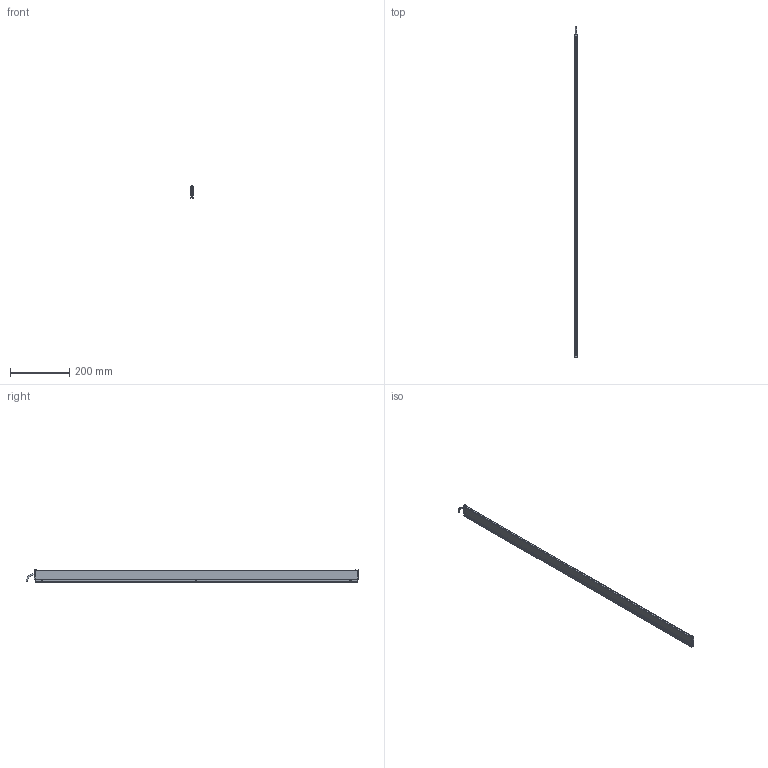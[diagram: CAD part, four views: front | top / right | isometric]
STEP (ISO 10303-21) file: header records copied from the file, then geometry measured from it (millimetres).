
FILE_DESCRIPTION (( 'STEP AP214' ), '1' );
FILE_NAME ('ILG-L-K1-1093mm.STEP', '2017-07-11T07:12:49', ( '' ), ( '' ), 'SwSTEP 2.0', 'SolidWorks 2016', '' );
FILE_SCHEMA (( 'AUTOMOTIVE_DESIGN' ));
Length unit declared in the file: millimetre
Products named in the file (1): ILG-L-K1-1093mm
Bounding box: 9 x 1121.25 x 40.71 mm (x, y, z)
Volume: 155553.9 mm3; surface area: 216186.1 mm2
Topology: 9 solids, 9 shells, 430 faces, 1108 edges, 698 vertices
Faces by surface type: plane 205, cylinder 151, cone 64, torus 10
Entity records: 17910 total; most frequent: CARTESIAN_POINT 2385, DIRECTION 2328, ORIENTED_EDGE 2200, EDGE_CURVE 1100, AXIS2_PLACEMENT_3D 849, VERTEX_POINT 698, LINE 630, VECTOR 630
